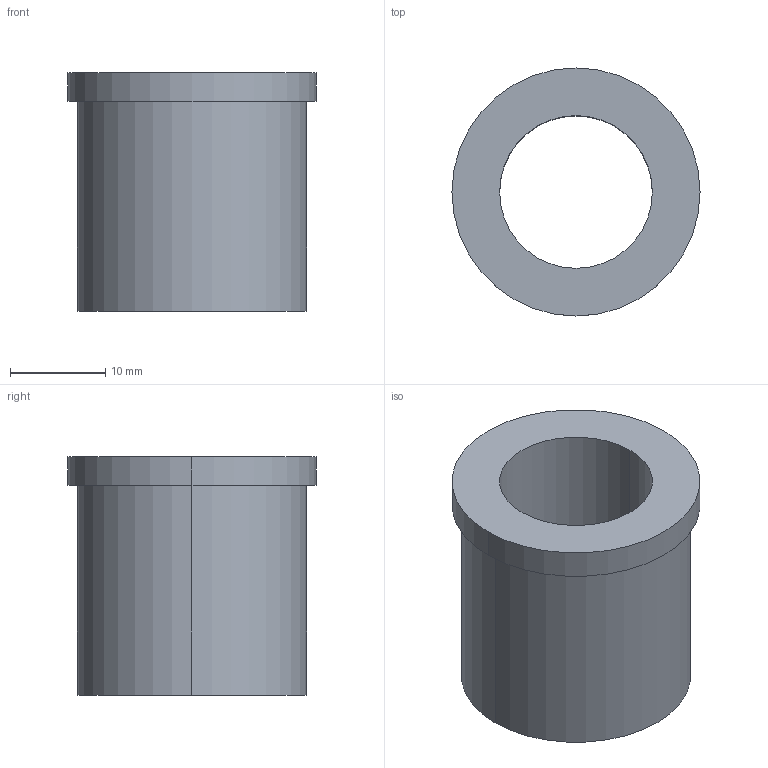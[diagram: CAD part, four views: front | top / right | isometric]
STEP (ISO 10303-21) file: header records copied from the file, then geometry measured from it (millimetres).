
FILE_DESCRIPTION(/* description */ (''),/* implementation_level */ '2;1');
FILE_NAME(/* name */ '3d_tgbf16-25_00362_r00.stp',/* time_stamp */ '2011-01-10T14:09:04+09:00',/* author */ ('MISUMI'),/* organization */ (''),/* preprocessor_version */ 'ST-DEVELOPER v11',/* originating_system */ 'UGS - NX 5.0',/* authorisation */ '');
FILE_SCHEMA (('CONFIG_CONTROL_DESIGN'));
Length unit declared in the file: millimetre
Products named in the file (1): 3d_tgbf16-25_00362_r00
Bounding box: 26 x 26 x 25 mm (x, y, z)
Volume: 6518.8 mm3; surface area: 3820.2 mm2
Topology: 1 solids, 1 shells, 9 faces, 18 edges, 12 vertices
Faces by surface type: cylinder 6, plane 3
Entity records: 334 total; most frequent: DIRECTION 50, CARTESIAN_POINT 40, ORIENTED_EDGE 36, AXIS2_PLACEMENT_3D 22, EDGE_CURVE 18, EDGE_LOOP 12, CIRCLE 12, VERTEX_POINT 12
